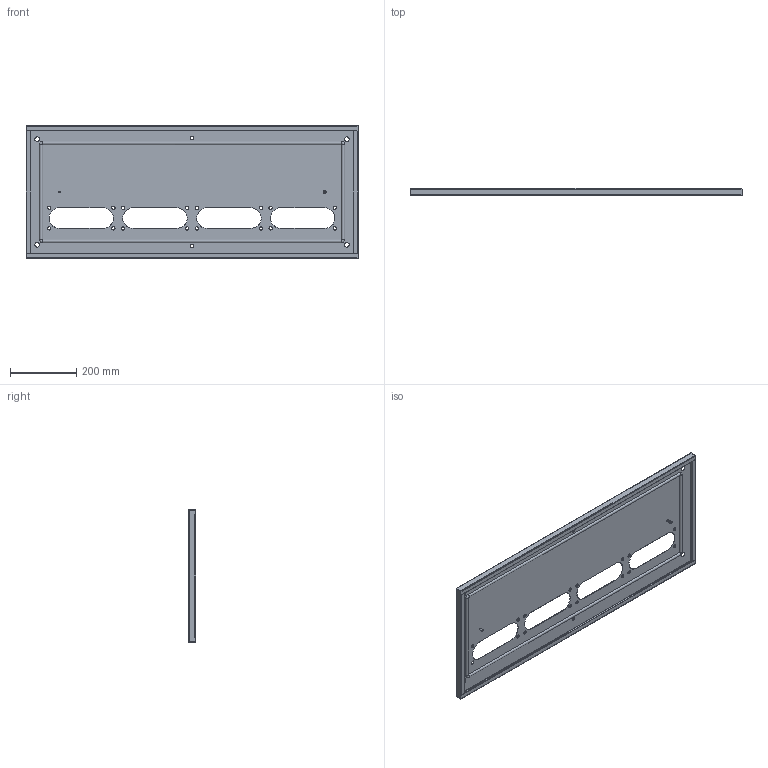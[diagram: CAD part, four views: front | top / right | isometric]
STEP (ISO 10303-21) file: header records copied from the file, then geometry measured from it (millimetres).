
FILE_DESCRIPTION (( 'STEP AP203' ), '1' );
FILE_NAME ('306416.STEP', '2021-06-17T12:35:05', ( '' ), ( '' ), 'SwSTEP 2.0', 'SolidWorks 2018', '' );
FILE_SCHEMA (( 'CONFIG_CONTROL_DESIGN' ));
Length unit declared in the file: millimetre
Products named in the file (6): AC00C061_AC00C061^306416(2)_306416; 306416; 306416(2)^306416; I6o12-A5100231_straight^306416(2)_306416; RB.0371.00.01.0_-06^306416(2)_306416; PF 10x5 KTB FL21_1000x0400^306416(2)_306416
Assembly tree (6 placements, depth 3):
  306416
    306416(2)^306416
      I6o12-A5100231_straight^306416(2)_306416  x2
      PF 10x5 KTB FL21_1000x0400^306416(2)_306416
      AC00C061_AC00C061^306416(2)_306416
      RB.0371.00.01.0_-06^306416(2)_306416
Bounding box: 999 x 21.5 x 399 mm (x, y, z)
Volume: 755277.1 mm3; surface area: 953757.9 mm2
Topology: 7 solids, 7 shells, 170 faces, 430 edges, 270 vertices
Faces by surface type: cylinder 88, plane 70, bspline 12
Entity records: 9298 total; most frequent: CARTESIAN_POINT 5436, ORIENTED_EDGE 840, B_SPLINE_CURVE_WITH_KNOTS 420, EDGE_CURVE 420, DIRECTION 328, VERTEX_POINT 266, EDGE_LOOP 220, ADVANCED_FACE 166
